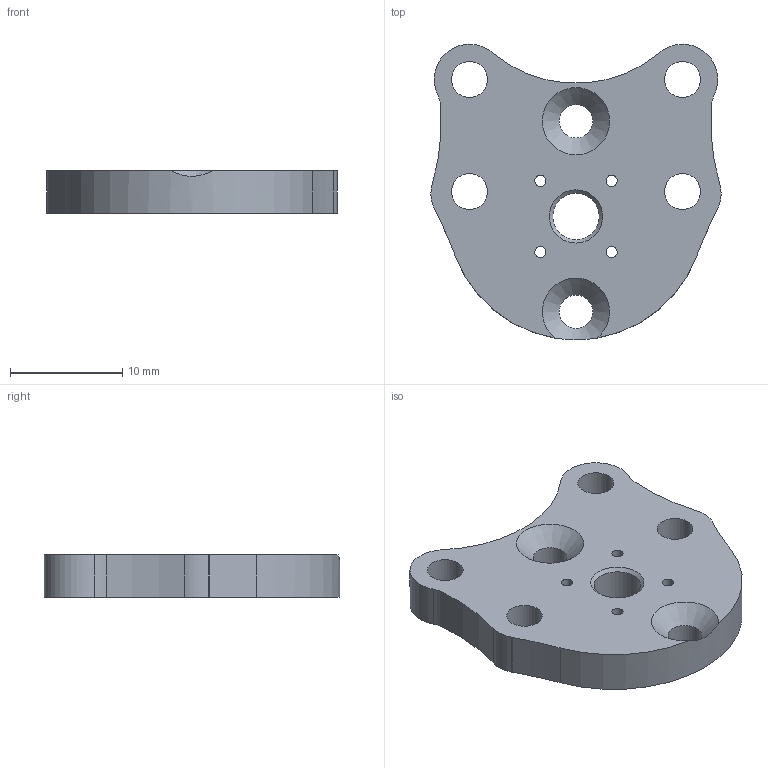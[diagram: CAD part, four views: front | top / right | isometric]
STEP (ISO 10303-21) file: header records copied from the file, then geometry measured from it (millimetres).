
FILE_DESCRIPTION(/* description */ (''),/* implementation_level */ '2;1');
FILE_NAME(/* name */ 'C:/Users/Florent/Desktop/Flathead V2.1/Dragon Shroud/LGX Lite Flathead NOVA v1.step',/* time_stamp */ '2022-04-06T02:08:07+02:00',/* author */ (''),/* organization */ (''),/* preprocessor_version */ 'ST-DEVELOPER v18.1',/* originating_system */ 'Autodesk Translation Framework v10.14.0.1471',/* authorisation */ '');
FILE_SCHEMA (('AUTOMOTIVE_DESIGN { 1 0 10303 214 3 1 1 }','AP242_MANAGED_MODEL_BASED_3D_ENGINEERING_MIM_LF { 1 0 10303 442 1 1 4 }'));
Length unit declared in the file: millimetre
Products named in the file (1): LGX Lite Flathead NOVA
Bounding box: 25.9 x 26.37 x 3.8 mm (x, y, z)
Volume: 1710.6 mm3; surface area: 1574.9 mm2
Topology: 1 solids, 1 shells, 35 faces, 94 edges, 60 vertices
Faces by surface type: cylinder 25, cone 8, plane 2
Full cylindrical faces by diameter (mm): 1 x4, 3 x2, 3.2 x4, 4.15 x1
Entity records: 1208 total; most frequent: DIRECTION 225, CARTESIAN_POINT 199, ORIENTED_EDGE 188, AXIS2_PLACEMENT_3D 96, EDGE_CURVE 94, CIRCLE 60, VERTEX_POINT 60, EDGE_LOOP 56
